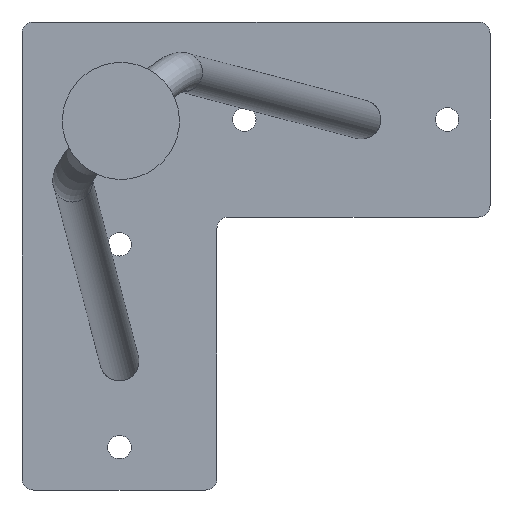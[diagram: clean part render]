
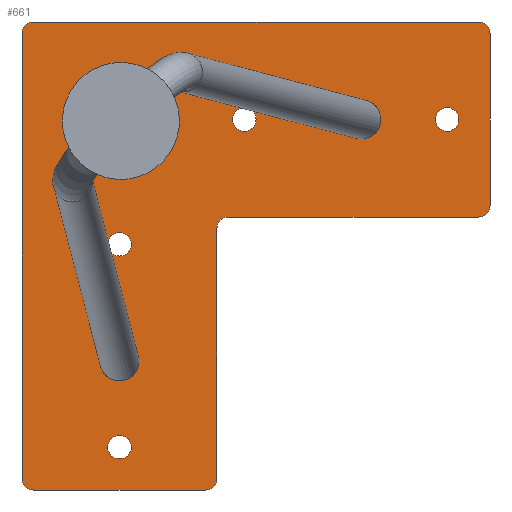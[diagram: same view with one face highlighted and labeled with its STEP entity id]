
A CAD part, front view. The second image highlights one B-rep face of the part: STEP entity #661.
In plain terms, the highlighted planar face has unit normal (0, -1, 0).
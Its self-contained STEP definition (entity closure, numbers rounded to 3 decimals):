
#35=FACE_BOUND('',#109,.T.);
#36=FACE_BOUND('',#110,.T.);
#37=FACE_BOUND('',#111,.T.);
#38=FACE_BOUND('',#112,.T.);
#39=FACE_BOUND('',#113,.T.);
#40=FACE_BOUND('',#114,.T.);
#41=FACE_BOUND('',#115,.T.);
#50=PLANE('',#735);
#70=FACE_OUTER_BOUND('',#108,.T.);
#108=EDGE_LOOP('',(#469,#470,#471,#472,#473,#474,#475,#476,#477,#478,#479,
#480));
#109=EDGE_LOOP('',(#481,#482));
#110=EDGE_LOOP('',(#483,#484));
#111=EDGE_LOOP('',(#485,#486));
#112=EDGE_LOOP('',(#487));
#113=EDGE_LOOP('',(#488));
#114=EDGE_LOOP('',(#489));
#115=EDGE_LOOP('',(#490));
#154=LINE('',#1076,#191);
#157=LINE('',#1082,#194);
#158=LINE('',#1086,#195);
#159=LINE('',#1090,#196);
#160=LINE('',#1094,#197);
#161=LINE('',#1098,#198);
#191=VECTOR('',#857,10.);
#194=VECTOR('',#862,10.);
#195=VECTOR('',#865,10.);
#196=VECTOR('',#868,10.);
#197=VECTOR('',#871,10.);
#198=VECTOR('',#874,10.);
#223=CIRCLE('',#714,5.);
#224=CIRCLE('',#715,5.);
#227=CIRCLE('',#720,5.);
#228=CIRCLE('',#721,5.);
#231=CIRCLE('',#726,5.);
#232=CIRCLE('',#727,5.);
#236=CIRCLE('',#733,3.);
#237=CIRCLE('',#736,3.);
#238=CIRCLE('',#737,3.);
#239=CIRCLE('',#738,3.);
#240=CIRCLE('',#739,3.);
#241=CIRCLE('',#740,3.);
#242=CIRCLE('',#741,3.);
#243=CIRCLE('',#742,3.);
#244=CIRCLE('',#743,3.);
#245=CIRCLE('',#744,3.);
#270=VERTEX_POINT('',#1033);
#271=VERTEX_POINT('',#1034);
#274=VERTEX_POINT('',#1044);
#275=VERTEX_POINT('',#1045);
#278=VERTEX_POINT('',#1055);
#279=VERTEX_POINT('',#1056);
#284=VERTEX_POINT('',#1069);
#285=VERTEX_POINT('',#1071);
#286=VERTEX_POINT('',#1075);
#288=VERTEX_POINT('',#1081);
#289=VERTEX_POINT('',#1083);
#290=VERTEX_POINT('',#1085);
#291=VERTEX_POINT('',#1087);
#292=VERTEX_POINT('',#1089);
#293=VERTEX_POINT('',#1091);
#294=VERTEX_POINT('',#1093);
#295=VERTEX_POINT('',#1095);
#296=VERTEX_POINT('',#1097);
#297=VERTEX_POINT('',#1100);
#298=VERTEX_POINT('',#1102);
#299=VERTEX_POINT('',#1104);
#300=VERTEX_POINT('',#1106);
#339=EDGE_CURVE('',#270,#271,#223,.T.);
#340=EDGE_CURVE('',#271,#270,#224,.T.);
#344=EDGE_CURVE('',#274,#275,#227,.T.);
#345=EDGE_CURVE('',#275,#274,#228,.T.);
#349=EDGE_CURVE('',#278,#279,#231,.T.);
#350=EDGE_CURVE('',#279,#278,#232,.T.);
#356=EDGE_CURVE('',#284,#285,#236,.T.);
#358=EDGE_CURVE('',#285,#286,#154,.T.);
#361=EDGE_CURVE('',#288,#284,#157,.T.);
#362=EDGE_CURVE('',#289,#288,#237,.T.);
#363=EDGE_CURVE('',#290,#289,#158,.T.);
#364=EDGE_CURVE('',#291,#290,#238,.T.);
#365=EDGE_CURVE('',#292,#291,#159,.T.);
#366=EDGE_CURVE('',#293,#292,#239,.T.);
#367=EDGE_CURVE('',#294,#293,#160,.T.);
#368=EDGE_CURVE('',#295,#294,#240,.T.);
#369=EDGE_CURVE('',#296,#295,#161,.T.);
#370=EDGE_CURVE('',#286,#296,#241,.T.);
#371=EDGE_CURVE('',#297,#297,#242,.T.);
#372=EDGE_CURVE('',#298,#298,#243,.T.);
#373=EDGE_CURVE('',#299,#299,#244,.T.);
#374=EDGE_CURVE('',#300,#300,#245,.T.);
#469=ORIENTED_EDGE('',*,*,#356,.F.);
#470=ORIENTED_EDGE('',*,*,#361,.F.);
#471=ORIENTED_EDGE('',*,*,#362,.F.);
#472=ORIENTED_EDGE('',*,*,#363,.F.);
#473=ORIENTED_EDGE('',*,*,#364,.F.);
#474=ORIENTED_EDGE('',*,*,#365,.F.);
#475=ORIENTED_EDGE('',*,*,#366,.F.);
#476=ORIENTED_EDGE('',*,*,#367,.F.);
#477=ORIENTED_EDGE('',*,*,#368,.F.);
#478=ORIENTED_EDGE('',*,*,#369,.F.);
#479=ORIENTED_EDGE('',*,*,#370,.F.);
#480=ORIENTED_EDGE('',*,*,#358,.F.);
#481=ORIENTED_EDGE('',*,*,#339,.T.);
#482=ORIENTED_EDGE('',*,*,#340,.T.);
#483=ORIENTED_EDGE('',*,*,#344,.T.);
#484=ORIENTED_EDGE('',*,*,#345,.T.);
#485=ORIENTED_EDGE('',*,*,#349,.T.);
#486=ORIENTED_EDGE('',*,*,#350,.T.);
#487=ORIENTED_EDGE('',*,*,#371,.F.);
#488=ORIENTED_EDGE('',*,*,#372,.F.);
#489=ORIENTED_EDGE('',*,*,#373,.F.);
#490=ORIENTED_EDGE('',*,*,#374,.F.);
#661=ADVANCED_FACE('',(#70,#35,#36,#37,#38,#39,#40,#41),#50,.F.);
#714=AXIS2_PLACEMENT_3D('',#1035,#810,#811);
#715=AXIS2_PLACEMENT_3D('',#1036,#812,#813);
#720=AXIS2_PLACEMENT_3D('',#1046,#823,#824);
#721=AXIS2_PLACEMENT_3D('',#1047,#825,#826);
#726=AXIS2_PLACEMENT_3D('',#1057,#836,#837);
#727=AXIS2_PLACEMENT_3D('',#1058,#838,#839);
#733=AXIS2_PLACEMENT_3D('',#1072,#852,#853);
#735=AXIS2_PLACEMENT_3D('',#1080,#860,#861);
#736=AXIS2_PLACEMENT_3D('',#1084,#863,#864);
#737=AXIS2_PLACEMENT_3D('',#1088,#866,#867);
#738=AXIS2_PLACEMENT_3D('',#1092,#869,#870);
#739=AXIS2_PLACEMENT_3D('',#1096,#872,#873);
#740=AXIS2_PLACEMENT_3D('',#1099,#875,#876);
#741=AXIS2_PLACEMENT_3D('',#1101,#877,#878);
#742=AXIS2_PLACEMENT_3D('',#1103,#879,#880);
#743=AXIS2_PLACEMENT_3D('',#1105,#881,#882);
#744=AXIS2_PLACEMENT_3D('',#1107,#883,#884);
#810=DIRECTION('center_axis',(0.,1.,0.));
#811=DIRECTION('ref_axis',(1.,0.,0.));
#812=DIRECTION('center_axis',(0.,1.,0.));
#813=DIRECTION('ref_axis',(1.,0.,0.));
#823=DIRECTION('center_axis',(0.,1.,0.));
#824=DIRECTION('ref_axis',(1.,0.,0.));
#825=DIRECTION('center_axis',(0.,1.,0.));
#826=DIRECTION('ref_axis',(1.,0.,0.));
#836=DIRECTION('center_axis',(0.,1.,0.));
#837=DIRECTION('ref_axis',(1.,0.,0.));
#838=DIRECTION('center_axis',(0.,1.,0.));
#839=DIRECTION('ref_axis',(1.,0.,0.));
#852=DIRECTION('center_axis',(0.,1.,0.));
#853=DIRECTION('ref_axis',(-0.707,0.,-0.707));
#857=DIRECTION('',(0.,0.,1.));
#860=DIRECTION('center_axis',(0.,1.,0.));
#861=DIRECTION('ref_axis',(0.,0.,1.));
#862=DIRECTION('',(-1.,0.,0.));
#863=DIRECTION('center_axis',(0.,1.,0.));
#864=DIRECTION('ref_axis',(0.707,0.,-0.707));
#865=DIRECTION('',(0.,0.,-1.));
#866=DIRECTION('center_axis',(0.,-1.,0.));
#867=DIRECTION('ref_axis',(-0.707,0.,0.707));
#868=DIRECTION('',(-1.,0.,0.));
#869=DIRECTION('center_axis',(0.,1.,0.));
#870=DIRECTION('ref_axis',(0.707,0.,-0.707));
#871=DIRECTION('',(0.,0.,-1.));
#872=DIRECTION('center_axis',(0.,1.,0.));
#873=DIRECTION('ref_axis',(0.707,0.,0.707));
#874=DIRECTION('',(1.,0.,0.));
#875=DIRECTION('center_axis',(0.,1.,0.));
#876=DIRECTION('ref_axis',(-0.707,0.,0.707));
#877=DIRECTION('center_axis',(0.,-1.,0.));
#878=DIRECTION('ref_axis',(1.,0.,0.));
#879=DIRECTION('center_axis',(0.,-1.,0.));
#880=DIRECTION('ref_axis',(1.,0.,0.));
#881=DIRECTION('center_axis',(0.,-1.,0.));
#882=DIRECTION('ref_axis',(1.,0.,0.));
#883=DIRECTION('center_axis',(0.,-1.,0.));
#884=DIRECTION('ref_axis',(1.,0.,0.));
#1033=CARTESIAN_POINT('',(30.,0.,15.06));
#1034=CARTESIAN_POINT('',(20.,0.,15.06));
#1035=CARTESIAN_POINT('Origin',(25.,0.,15.06));
#1036=CARTESIAN_POINT('Origin',(25.,0.,15.06));
#1044=CARTESIAN_POINT('',(30.,0.,-46.94));
#1045=CARTESIAN_POINT('',(20.,0.,-46.94));
#1046=CARTESIAN_POINT('Origin',(25.,0.,-46.94));
#1047=CARTESIAN_POINT('Origin',(25.,0.,-46.94));
#1055=CARTESIAN_POINT('',(92.,0.,15.06));
#1056=CARTESIAN_POINT('',(82.,0.,15.06));
#1057=CARTESIAN_POINT('Origin',(87.,0.,15.06));
#1058=CARTESIAN_POINT('Origin',(87.,0.,15.06));
#1069=CARTESIAN_POINT('',(3.,0.,-79.94));
#1071=CARTESIAN_POINT('',(0.,0.,-76.94));
#1072=CARTESIAN_POINT('Origin',(3.,0.,-76.94));
#1075=CARTESIAN_POINT('',(0.,0.,37.06));
#1076=CARTESIAN_POINT('',(0.,0.,-79.94));
#1080=CARTESIAN_POINT('Origin',(60.,0.,-19.94));
#1081=CARTESIAN_POINT('',(47.,0.,-79.94));
#1082=CARTESIAN_POINT('',(50.,0.,-79.94));
#1083=CARTESIAN_POINT('',(50.,0.,-76.94));
#1084=CARTESIAN_POINT('Origin',(47.,0.,-76.94));
#1085=CARTESIAN_POINT('',(50.,0.,-12.94));
#1086=CARTESIAN_POINT('',(50.,0.,-9.94));
#1087=CARTESIAN_POINT('',(53.,0.,-9.94));
#1088=CARTESIAN_POINT('Origin',(53.,0.,-12.94));
#1089=CARTESIAN_POINT('',(117.,0.,-9.94));
#1090=CARTESIAN_POINT('',(120.,0.,-9.94));
#1091=CARTESIAN_POINT('',(120.,0.,-6.94));
#1092=CARTESIAN_POINT('Origin',(117.,0.,-6.94));
#1093=CARTESIAN_POINT('',(120.,0.,37.06));
#1094=CARTESIAN_POINT('',(120.,0.,40.06));
#1095=CARTESIAN_POINT('',(117.,0.,40.06));
#1096=CARTESIAN_POINT('Origin',(117.,0.,37.06));
#1097=CARTESIAN_POINT('',(3.,0.,40.06));
#1098=CARTESIAN_POINT('',(0.,0.,40.06));
#1099=CARTESIAN_POINT('Origin',(3.,0.,37.06));
#1100=CARTESIAN_POINT('',(106.,0.,15.06));
#1101=CARTESIAN_POINT('Origin',(109.,0.,15.06));
#1102=CARTESIAN_POINT('',(54.,0.,15.06));
#1103=CARTESIAN_POINT('Origin',(57.,0.,15.06));
#1104=CARTESIAN_POINT('',(22.,0.,-68.94));
#1105=CARTESIAN_POINT('Origin',(25.,0.,-68.94));
#1106=CARTESIAN_POINT('',(22.,0.,-16.94));
#1107=CARTESIAN_POINT('Origin',(25.,0.,-16.94));
